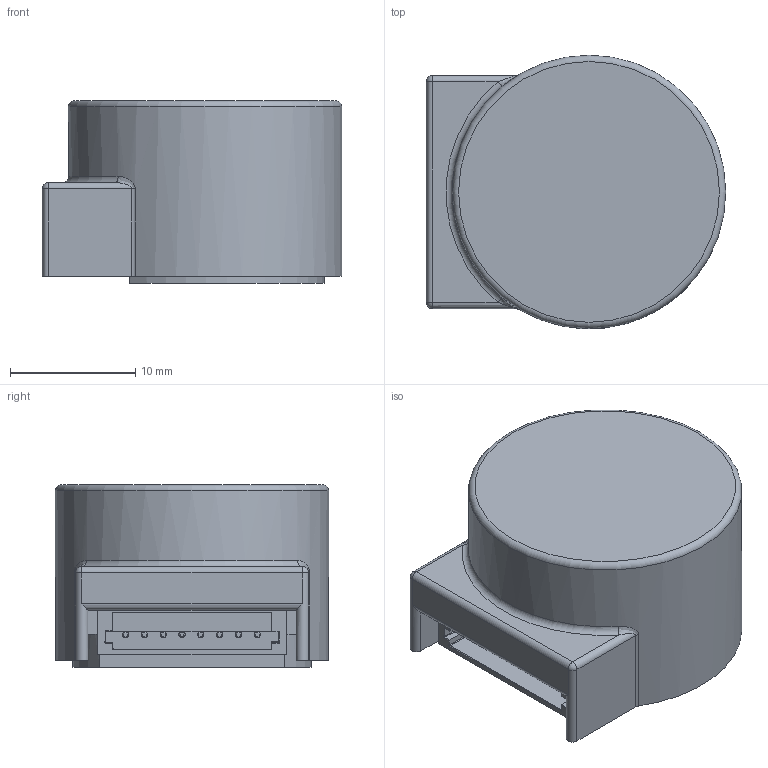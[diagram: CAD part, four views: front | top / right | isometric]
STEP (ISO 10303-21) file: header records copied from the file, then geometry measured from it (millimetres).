
FILE_DESCRIPTION(/* description */ (''),/* implementation_level */ '2;1');
FILE_NAME(/* name */ 'M9 Assembly.stp',/* time_stamp */ '2014-08-22T13:08:13-04:00',/* author */ (''),/* organization */ (''),/* preprocessor_version */ 'ST-DEVELOPER v11',/* originating_system */ 'SIEMENS UGS NX 6.0',/* authorisation */ '');
FILE_SCHEMA (('AUTOMOTIVE_DESIGN { 1 0 10303 214 1 1 1 1 }'));
Length unit declared in the file: inch
Products named in the file (9): JST Conn Pins; Line Driver; MPS160; M9_Cover; M9_Base; 17.5mm Target; M9_Connector_MODEL; M9_Board_MODEL; M9 Assembly
Assembly tree (8 placements, depth 4):
  M9 Assembly
    17.5mm Target
    M9_Board_MODEL
      M9_Connector_MODEL
        JST Conn Pins
      MPS160
      Line Driver
    M9_Base
    M9_Cover
Bounding box: 23.86 x 21.79 x 14.55 mm (x, y, z)
Volume: 3285.2 mm3; surface area: 6048.5 mm2
Topology: 16 solids, 16 shells, 788 faces, 2104 edges, 1356 vertices
Faces by surface type: plane 524, cylinder 226, sphere 18, torus 14, bspline 4, cone 2
Full cylindrical faces by diameter (mm): 0.5 x24, 1 x2, 2.459 x1, 3 x4, 4 x1, 5.3 x1, 5.5 x1, 7.976 x1, 10 x1, 17.2 x1, 17.5 x1, 19.787 x1, 21.787 x1
Entity records: 28098 total; most frequent: CARTESIAN_POINT 4438, DIRECTION 4194, ORIENTED_EDGE 3994, EDGE_CURVE 1997, AXIS2_PLACEMENT_3D 1417, LINE 1360, VECTOR 1360, VERTEX_POINT 1329
